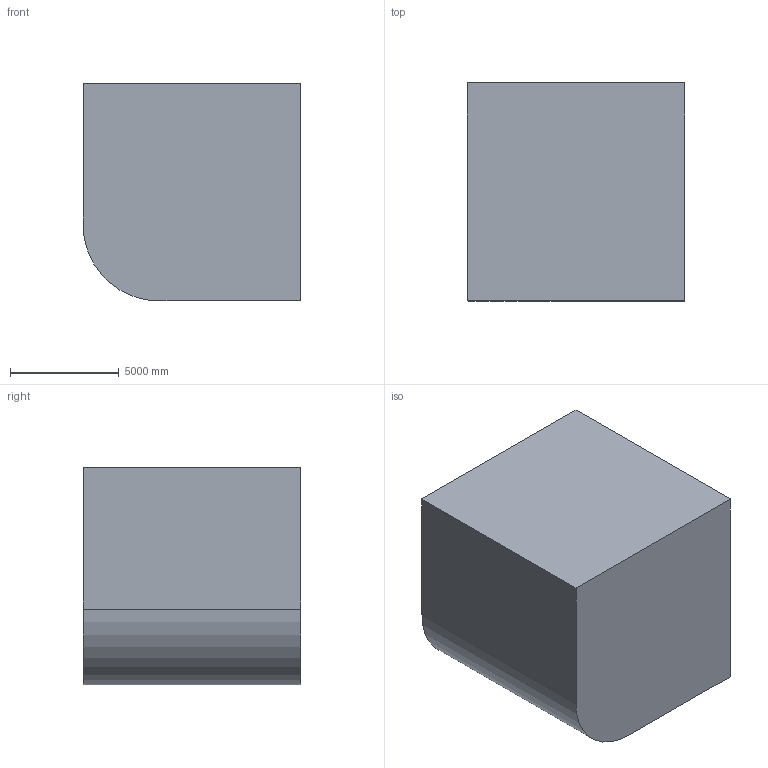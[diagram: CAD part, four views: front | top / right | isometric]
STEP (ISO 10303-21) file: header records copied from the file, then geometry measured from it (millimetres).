
FILE_DESCRIPTION (( 'STEP AP203' ), '1' );
FILE_NAME ('136.STEP', '2022-07-28T13:42:28', ( 'user' ), ( '' ), 'SwSTEP 2.0', 'SolidWorks 2021', '' );
FILE_SCHEMA (( 'CONFIG_CONTROL_DESIGN' ));
Length unit declared in the file: centimetre
Products named in the file (1): 136
Bounding box: 10000 x 10000 x 10000 mm (x, y, z)
Volume: 965092468378.5 mm3; surface area: 590693959.9 mm2
Topology: 1 solids, 1 shells, 11 faces, 27 edges, 18 vertices
Faces by surface type: plane 9, cylinder 2
Entity records: 402 total; most frequent: CARTESIAN_POINT 57, DIRECTION 55, ORIENTED_EDGE 54, EDGE_CURVE 27, LINE 23, VECTOR 23, VERTEX_POINT 18, AXIS2_PLACEMENT_3D 16
